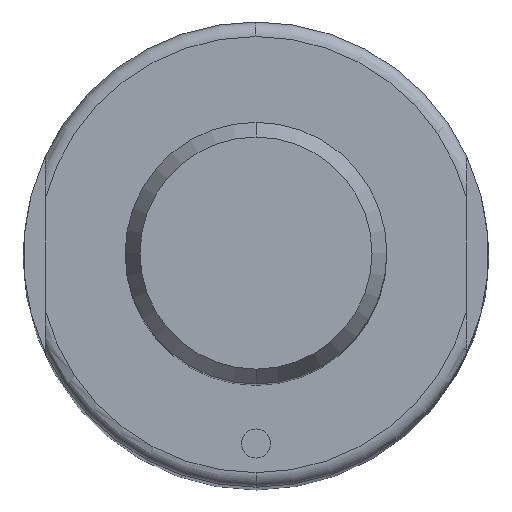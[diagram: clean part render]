
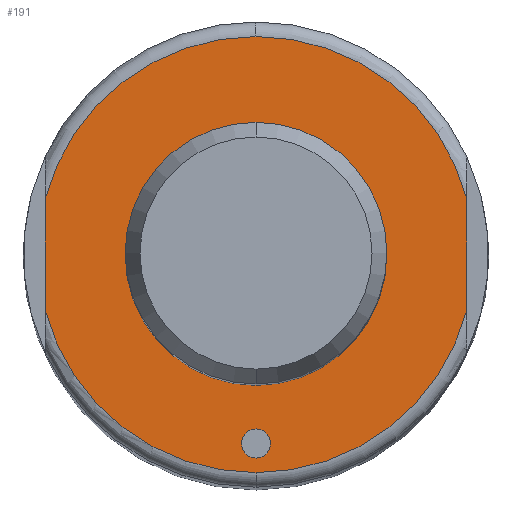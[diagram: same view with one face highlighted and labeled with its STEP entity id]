
A CAD part, top view. The second image highlights one B-rep face of the part: STEP entity #191.
In plain terms, the highlighted planar face has unit normal (0, 0, 1).
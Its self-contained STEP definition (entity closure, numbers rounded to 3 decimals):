
#115=FACE_BOUND('',#292,.T.);
#116=FACE_BOUND('',#293,.T.);
#117=FACE_BOUND('',#294,.T.);
#126=PLANE('',#862);
#191=ADVANCED_FACE('',(#115,#116,#117),#126,.T.);
#292=EDGE_LOOP('',(#515,#516,#517,#518,#519,#520));
#293=EDGE_LOOP('',(#521,#522));
#294=EDGE_LOOP('',(#523,#524));
#303=CIRCLE('',#774,9.);
#304=CIRCLE('',#776,9.);
#310=CIRCLE('',#786,1.);
#311=CIRCLE('',#788,1.);
#343=CIRCLE('',#846,15.);
#344=CIRCLE('',#848,15.);
#348=CIRCLE('',#854,15.);
#352=CIRCLE('',#860,15.);
#515=ORIENTED_EDGE('',*,*,#691,.F.);
#516=ORIENTED_EDGE('',*,*,#690,.F.);
#517=ORIENTED_EDGE('',*,*,#674,.F.);
#518=ORIENTED_EDGE('',*,*,#692,.F.);
#519=ORIENTED_EDGE('',*,*,#672,.F.);
#520=ORIENTED_EDGE('',*,*,#683,.F.);
#521=ORIENTED_EDGE('',*,*,#621,.F.);
#522=ORIENTED_EDGE('',*,*,#620,.F.);
#523=ORIENTED_EDGE('',*,*,#610,.T.);
#524=ORIENTED_EDGE('',*,*,#608,.T.);
#545=VERTEX_POINT('',#1117);
#546=VERTEX_POINT('',#1119);
#551=VERTEX_POINT('',#1138);
#554=VERTEX_POINT('',#1143);
#586=VERTEX_POINT('',#1259);
#588=VERTEX_POINT('',#1263);
#589=VERTEX_POINT('',#1274);
#591=VERTEX_POINT('',#1277);
#595=VERTEX_POINT('',#1298);
#600=VERTEX_POINT('',#1319);
#608=EDGE_CURVE('',#546,#545,#303,.T.);
#610=EDGE_CURVE('',#545,#546,#304,.T.);
#620=EDGE_CURVE('',#554,#551,#310,.T.);
#621=EDGE_CURVE('',#551,#554,#311,.T.);
#672=EDGE_CURVE('',#588,#586,#343,.T.);
#674=EDGE_CURVE('',#589,#591,#344,.T.);
#683=EDGE_CURVE('',#595,#588,#348,.T.);
#690=EDGE_CURVE('',#591,#600,#352,.T.);
#691=EDGE_CURVE('',#600,#595,#727,.T.);
#692=EDGE_CURVE('',#586,#589,#728,.T.);
#727=LINE('',#1322,#763);
#728=LINE('',#1323,#764);
#763=VECTOR('',#1089,1.);
#764=VECTOR('',#1090,1.);
#774=AXIS2_PLACEMENT_3D('',#1118,#884,#885);
#776=AXIS2_PLACEMENT_3D('',#1122,#889,#890);
#786=AXIS2_PLACEMENT_3D('',#1144,#913,#914);
#788=AXIS2_PLACEMENT_3D('',#1146,#917,#918);
#846=AXIS2_PLACEMENT_3D('',#1264,#1051,#1052);
#848=AXIS2_PLACEMENT_3D('',#1276,#1055,#1056);
#854=AXIS2_PLACEMENT_3D('',#1300,#1071,#1072);
#860=AXIS2_PLACEMENT_3D('',#1320,#1085,#1086);
#862=AXIS2_PLACEMENT_3D('',#1324,#1091,#1092);
#884=DIRECTION('',(0.,0.,-1.));
#885=DIRECTION('',(-1.,0.,0.));
#889=DIRECTION('',(0.,0.,-1.));
#890=DIRECTION('',(1.,0.,0.));
#913=DIRECTION('',(0.,0.,1.));
#914=DIRECTION('',(-1.,0.,0.));
#917=DIRECTION('',(0.,0.,1.));
#918=DIRECTION('',(1.,0.,0.));
#1051=DIRECTION('',(0.,0.,-1.));
#1052=DIRECTION('',(-1.,0.,0.));
#1055=DIRECTION('',(0.,0.,-1.));
#1056=DIRECTION('',(-1.,0.,0.));
#1071=DIRECTION('',(0.,0.,-1.));
#1072=DIRECTION('',(1.,0.,0.));
#1085=DIRECTION('',(0.,0.,-1.));
#1086=DIRECTION('',(1.,0.,0.));
#1089=DIRECTION('',(0.,1.,0.));
#1090=DIRECTION('',(0.,-1.,0.));
#1091=DIRECTION('',(0.,0.,1.));
#1092=DIRECTION('',(1.,0.,0.));
#1117=CARTESIAN_POINT('',(0.,-9.,112.));
#1118=CARTESIAN_POINT('',(0.,0.,112.));
#1119=CARTESIAN_POINT('',(0.,9.,112.));
#1122=CARTESIAN_POINT('',(0.,0.,112.));
#1138=CARTESIAN_POINT('',(0.,-12.,112.));
#1143=CARTESIAN_POINT('',(0.,-14.,112.));
#1144=CARTESIAN_POINT('',(0.,-13.,112.));
#1146=CARTESIAN_POINT('',(0.,-13.,112.));
#1259=CARTESIAN_POINT('',(14.5,3.841,112.));
#1263=CARTESIAN_POINT('',(0.,15.,112.));
#1264=CARTESIAN_POINT('',(0.,0.,112.));
#1274=CARTESIAN_POINT('',(14.5,-3.841,112.));
#1276=CARTESIAN_POINT('',(0.,0.,112.));
#1277=CARTESIAN_POINT('',(0.,-15.,112.));
#1298=CARTESIAN_POINT('',(-14.5,3.841,112.));
#1300=CARTESIAN_POINT('',(0.,0.,112.));
#1319=CARTESIAN_POINT('',(-14.5,-3.841,112.));
#1320=CARTESIAN_POINT('',(0.,0.,112.));
#1322=CARTESIAN_POINT('',(-14.5,0.,112.));
#1323=CARTESIAN_POINT('',(14.5,0.,112.));
#1324=CARTESIAN_POINT('',(0.,0.,112.));
